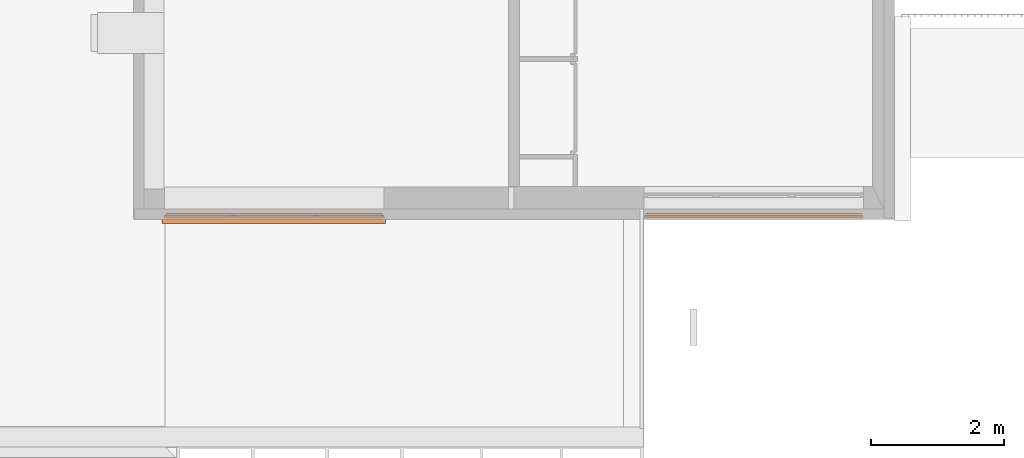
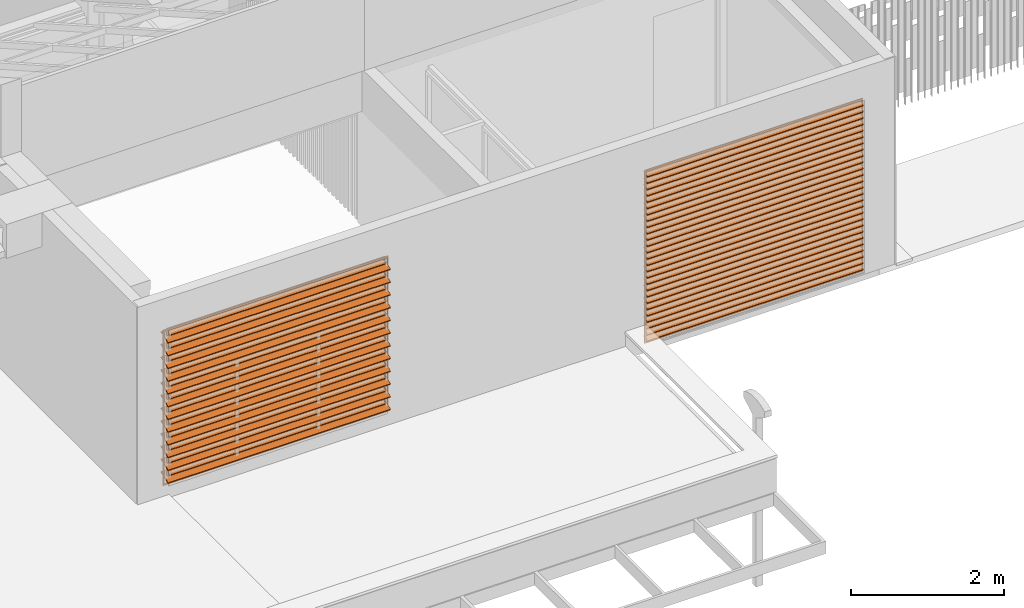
# One storey, part 35 of 51: 3 proxies.
"""IFC2X3 building model written with IfcOpenShell, lengths in metres."""

from ifc_helpers import new_model, entity, si_unit, converted_unit, derived_unit, direction, frame, frame_2d, origin, place, context, subcontext, project, spatial, polyline, rectangle, outline, extrude, source, transform, mapped, material, type_object, type_shapes, element, save


model = new_model("IFC2X3")

# Units and contexts
model_context = context("Model", 3, precision=1e-05, world=origin(), true_north=direction((6.123031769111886e-17, 1.0)))
body_context = subcontext(model_context, "Body", "Model", "MODEL_VIEW")
ifc_project = project(units=[si_unit("LENGTHUNIT", "METRE"), si_unit("AREAUNIT", "SQUARE_METRE"), si_unit("VOLUMEUNIT", "CUBIC_METRE"), converted_unit("PLANEANGLEUNIT", "DEGREE", entity("IfcRatioMeasure", 0.017453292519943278), si_unit("PLANEANGLEUNIT", "RADIAN"), dimensions=[0, 0, 0, 0, 0, 0, 0]), si_unit("MASSUNIT", "GRAM", prefix="KILO"), derived_unit("MASSDENSITYUNIT", [(si_unit("MASSUNIT", "GRAM", prefix="KILO"), 1), (si_unit("LENGTHUNIT", "METRE"), -3)]), derived_unit("MOMENTOFINERTIAUNIT", [(si_unit("LENGTHUNIT", "METRE"), 4)]), si_unit("TIMEUNIT", "SECOND"), si_unit("FREQUENCYUNIT", "HERTZ"), si_unit("THERMODYNAMICTEMPERATUREUNIT", "DEGREE_CELSIUS"), derived_unit("THERMALTRANSMITTANCEUNIT", [(si_unit("MASSUNIT", "GRAM", prefix="KILO"), 1), (si_unit("THERMODYNAMICTEMPERATUREUNIT", "KELVIN"), -1), (si_unit("TIMEUNIT", "SECOND"), -3)]), derived_unit("THERMALCONDUCTANCEUNIT", [(si_unit("MASSUNIT", "GRAM", prefix="KILO"), 1), (si_unit("LENGTHUNIT", "METRE"), 1), (si_unit("THERMODYNAMICTEMPERATUREUNIT", "KELVIN"), -1), (si_unit("TIMEUNIT", "SECOND"), -3)]), derived_unit("VOLUMETRICFLOWRATEUNIT", [(si_unit("LENGTHUNIT", "METRE"), 3), (si_unit("TIMEUNIT", "SECOND"), -1)]), derived_unit("MASSFLOWRATEUNIT", [(si_unit("MASSUNIT", "GRAM", prefix="KILO"), 1), (si_unit("TIMEUNIT", "SECOND"), -1)]), derived_unit("ROTATIONALFREQUENCYUNIT", [(si_unit("TIMEUNIT", "SECOND"), -1)]), si_unit("ELECTRICCURRENTUNIT", "AMPERE"), si_unit("ELECTRICVOLTAGEUNIT", "VOLT"), si_unit("POWERUNIT", "WATT"), si_unit("FORCEUNIT", "NEWTON", prefix="KILO"), si_unit("ILLUMINANCEUNIT", "LUX"), si_unit("LUMINOUSFLUXUNIT", "LUMEN"), si_unit("LUMINOUSINTENSITYUNIT", "CANDELA"), derived_unit("USERDEFINED", [(si_unit("MASSUNIT", "GRAM", prefix="KILO"), -1), (si_unit("LENGTHUNIT", "METRE"), -2), (si_unit("TIMEUNIT", "SECOND"), 3), (si_unit("LUMINOUSFLUXUNIT", "LUMEN"), 1)]), derived_unit("USERDEFINED", [(si_unit("MASSUNIT", "GRAM", prefix="KILO"), 1), (si_unit("LENGTHUNIT", "METRE"), 3), (si_unit("TIMEUNIT", "SECOND"), -3), (si_unit("ELECTRICCURRENTUNIT", "AMPERE"), -2)]), derived_unit("USERDEFINED", [(si_unit("LENGTHUNIT", "METRE"), 2), (si_unit("TIMEUNIT", "SECOND"), -2)]), derived_unit("SOUNDPOWERUNIT", [(si_unit("MASSUNIT", "GRAM", prefix="KILO"), 1), (si_unit("LENGTHUNIT", "METRE"), 2), (si_unit("TIMEUNIT", "SECOND"), -3)]), derived_unit("SOUNDPRESSUREUNIT", [(si_unit("MASSUNIT", "GRAM", prefix="KILO"), 1), (si_unit("LENGTHUNIT", "METRE"), -1), (si_unit("TIMEUNIT", "SECOND"), -2)]), derived_unit("LINEARVELOCITYUNIT", [(si_unit("LENGTHUNIT", "METRE"), 1), (si_unit("TIMEUNIT", "SECOND"), -1)]), si_unit("PRESSUREUNIT", "PASCAL"), derived_unit("USERDEFINED", [(si_unit("LENGTHUNIT", "METRE"), -2), (si_unit("MASSUNIT", "GRAM", prefix="KILO"), 1), (si_unit("TIMEUNIT", "SECOND"), -2)]), derived_unit("LINEARFORCEUNIT", [(si_unit("MASSUNIT", "GRAM", prefix="KILO"), 1), (si_unit("LENGTHUNIT", "METRE"), 1), (si_unit("TIMEUNIT", "SECOND"), -2), (si_unit("LENGTHUNIT", "METRE"), -1)]), derived_unit("PLANARFORCEUNIT", [(si_unit("MASSUNIT", "GRAM", prefix="KILO"), 1), (si_unit("LENGTHUNIT", "METRE"), 1), (si_unit("TIMEUNIT", "SECOND"), -2), (si_unit("LENGTHUNIT", "METRE"), -2)]), derived_unit("SPECIFICHEATCAPACITYUNIT", [(si_unit("LENGTHUNIT", "METRE"), 2), (si_unit("TIMEUNIT", "SECOND"), -2), (si_unit("THERMODYNAMICTEMPERATUREUNIT", "KELVIN"), -1)]), derived_unit("VAPORPERMEABILITYUNIT", [(si_unit("TIMEUNIT", "SECOND"), 1), (si_unit("LENGTHUNIT", "METRE"), -1)]), derived_unit("DYNAMICVISCOSITYUNIT", [(si_unit("MASSUNIT", "GRAM", prefix="KILO"), 1), (si_unit("LENGTHUNIT", "METRE"), -1), (si_unit("TIMEUNIT", "SECOND"), -1)]), derived_unit("THERMALEXPANSIONCOEFFICIENTUNIT", [(si_unit("THERMODYNAMICTEMPERATUREUNIT", "KELVIN"), -1)])], contexts=[model_context])

# Site, building, storey
site_placement = place(None, origin())
site = spatial("IfcSite", under=ifc_project, at=site_placement, Name="Default", CompositionType="ELEMENT")
building_placement = place(site_placement, origin())
building = spatial("IfcBuilding", under=site, at=building_placement, CompositionType="ELEMENT")
storey_placement = place(building_placement, frame((0.0, 0.0, 3.06)))
storey = spatial("IfcBuildingStorey", under=building, at=storey_placement, Name="ÉTAGE", CompositionType="ELEMENT", Elevation=3.06)

# Proxies
ifc_material = material(Name="Peinture - Anthracite")
building_element_proxy_type_1 = type_object("IfcBuildingElementProxyType", Name="Symb-0003", PredefinedType="NOTDEFINED", material=ifc_material)
shared_shape_1 = source(origin(), body_context, "Body", "SweptSolid", [
    extrude(rectangle(XDim=0.02000000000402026, YDim=0.2033333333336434, at=frame_2d((-1.185440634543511e-13, 4.3146909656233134e-14), x_axis=(0.0, 1.0))), frame((117.340752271, 7.628253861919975, 5.698333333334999), z_axis=(1.0, 0.0, 0.0), x_axis=(0.0, 0.9396926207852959, 0.34202014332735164)), (0.0, 0.0, 1.0), 3.3599999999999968),
    extrude(rectangle(XDim=0.019999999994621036, YDim=0.20333333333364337, at=frame_2d((-1.1873141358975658e-13, 4.2640370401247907e-14), x_axis=(0.0, 1.0))), frame((117.340752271, 7.628253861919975, 5.495), z_axis=(1.0, 0.0, 0.0), x_axis=(0.0, 0.9396926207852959, 0.34202014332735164)), (0.0, 0.0, 1.0), 3.3599999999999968),
    extrude(rectangle(XDim=0.020000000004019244, YDim=0.20333333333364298, at=frame_2d((-1.1873141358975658e-13, 4.2636033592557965e-14), x_axis=(0.0, 1.0))), frame((117.340752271, 7.628253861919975, 5.291666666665), z_axis=(1.0, 0.0, 0.0), x_axis=(0.0, 0.9396926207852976, 0.34202014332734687)), (0.0, 0.0, 1.0), 3.3599999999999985),
    extrude(rectangle(XDim=0.020000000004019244, YDim=0.2033333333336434, at=frame_2d((-1.1891876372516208e-13, 4.21320964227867e-14), x_axis=(0.0, 1.0))), frame((117.340752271, 7.628253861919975, 5.088333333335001), z_axis=(1.0, 0.0, 0.0), x_axis=(0.0, 0.9396926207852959, 0.34202014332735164)), (0.0, 0.0, 1.0), 3.3599999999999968),
    extrude(rectangle(XDim=0.019999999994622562, YDim=0.20333333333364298, at=frame_2d((-1.185440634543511e-13, 4.3146909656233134e-14), x_axis=(0.0, 1.0))), frame((117.340752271, 7.628253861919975, 4.885), z_axis=(1.0, 0.0, 0.0), x_axis=(0.0, 0.9396926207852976, 0.34202014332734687)), (0.0, 0.0, 1.0), 3.3599999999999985),
    extrude(rectangle(XDim=0.020000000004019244, YDim=0.20333333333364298, at=frame_2d((-1.186412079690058e-13, 4.289364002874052e-14), x_axis=(0.0, 1.0))), frame((117.340752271, 7.628253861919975, 4.6816666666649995), z_axis=(1.0, 0.0, 0.0), x_axis=(0.0, 0.9396926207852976, 0.34202014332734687)), (0.0, 0.0, 1.0), 3.3599999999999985),
    extrude(rectangle(XDim=0.020000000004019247, YDim=0.2033333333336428, at=frame_2d((-1.185440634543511e-13, 4.3146909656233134e-14), x_axis=(0.0, 1.0))), frame((117.340752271, 7.628253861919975, 4.478333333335), z_axis=(1.0, 0.0, 0.0), x_axis=(0.0, 0.9396926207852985, 0.34202014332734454)), (0.0, 0.0, 1.0), 3.3599999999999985),
    extrude(rectangle(XDim=0.02000000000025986, YDim=0.20333333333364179, at=frame_2d((-1.1813466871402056e-13, 4.2708024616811e-14), x_axis=(0.0, 1.0))), frame((117.340752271, 7.628253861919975, 4.275), z_axis=(1.0, 0.0, 0.0), x_axis=(0.0, 0.9396926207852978, 0.34202014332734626)), (0.0, 0.0, 1.0), 3.3599999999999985),
    extrude(rectangle(XDim=0.020000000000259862, YDim=0.20333333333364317, at=frame_2d((-2.04190830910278e-13, -1.921639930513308e-13), x_axis=(0.0, 1.0))), frame((117.340752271, 7.628253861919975, 4.071666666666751), z_axis=(1.0, 0.0, 0.0), x_axis=(0.0, 0.9396926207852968, 0.34202014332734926)), (0.0, 0.0, 1.0), 3.3599999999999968),
    extrude(rectangle(XDim=0.019999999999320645, YDim=0.20333333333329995, at=frame_2d((-3.267525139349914e-14, 2.775123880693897e-13), x_axis=(0.0, 1.0))), frame((117.340752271, 7.628253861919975, 3.8683333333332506), z_axis=(1.0, 0.0, 0.0), x_axis=(0.0, 0.9396926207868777, 0.34202014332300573)), (0.0, 0.0, 1.0), 3.3599999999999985),
    extrude(rectangle(XDim=0.02000000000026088, YDim=0.20333333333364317, at=frame_2d((-1.186412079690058e-13, 4.289364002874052e-14), x_axis=(0.0, 1.0))), frame((117.340752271, 7.628253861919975, 3.6649999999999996), z_axis=(1.0, 0.0, 0.0), x_axis=(0.0, 0.9396926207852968, 0.34202014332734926)), (0.0, 0.0, 1.0), 3.3599999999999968),
    extrude(rectangle(XDim=0.019999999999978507, YDim=0.203333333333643, at=frame_2d((-1.783642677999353e-13, -1.211903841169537e-13), x_axis=(0.0, 1.0))), frame((117.340752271, 7.628253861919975, 3.4616666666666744), z_axis=(1.0, 0.0, 0.0), x_axis=(0.0, 0.9396926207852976, 0.34202014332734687)), (0.0, 0.0, 1.0), 3.3599999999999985),
    extrude(outline(polyline([(-1.2400000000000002, -1.6999999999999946), (1.2400000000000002, -1.6999999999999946), (1.2400000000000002, 1.6999999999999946), (-1.2400000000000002, 1.6999999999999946), (-1.2400000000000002, -1.6999999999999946)]), holes=[polyline([(-1.2200000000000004, 1.6799999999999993), (1.22, 1.6799999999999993), (1.22, -1.6799999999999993), (-1.2200000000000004, -1.6799999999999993), (-1.2200000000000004, 1.6799999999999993)])]), frame((119.020752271, 7.61825386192, 4.58), z_axis=(0.0, 1.0, 0.0), x_axis=(0.0, 0.0, -1.0)), (0.0, 0.0, 1.0), 0.019999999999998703),
])
type_shapes(building_element_proxy_type_1, [shared_shape_1])
proxy_1_placement = place(storey_placement, frame((0.0, 0.0, -3.06)))
element("IfcBuildingElementProxy", 1, at=proxy_1_placement, inside=storey, type_object=building_element_proxy_type_1, material=ifc_material, Name="Symb-0003 254697:Symb-0003 254697", ObjectType="Symb-0003 254697:Symb-0003 254697", context=body_context, shape_type="MappedRepresentation", body=[
    mapped(shared_shape_1, transform((0.0, 0.0, 0.0), scale=1.0)),
])
building_element_proxy_type_2 = type_object("IfcBuildingElementProxyType", Name="Symb-0003", PredefinedType="NOTDEFINED", material=ifc_material)
shared_shape_2 = source(origin(), body_context, "Body", "SweptSolid", [
    extrude(rectangle(XDim=0.019999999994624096, YDim=0.1007407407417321, at=frame_2d((-6.938893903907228e-16, -3.226585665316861e-16), x_axis=(0.0, 1.0))), frame((124.61075226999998, 7.6372094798, 5.749629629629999), z_axis=(1.0, 0.0, 0.0), x_axis=(0.0, 0.9396926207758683, 0.34202014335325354)), (0.0, 0.0, 1.0), 3.260000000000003),
    extrude(rectangle(XDim=0.01999999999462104, YDim=0.10074074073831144, at=frame_2d((8.548439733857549e-13, 2.3502449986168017e-12), x_axis=(0.0, 1.0))), frame((124.61075226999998, 7.6372094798, 5.648888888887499), z_axis=(1.0, 0.0, 0.0), x_axis=(0.0, 0.9396926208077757, 0.34202014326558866)), (0.0, 0.0, 1.0), 3.260000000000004),
    extrude(rectangle(XDim=0.019999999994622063, YDim=0.10074074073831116, at=frame_2d((8.551631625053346e-13, 2.349550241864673e-12), x_axis=(0.0, 1.0))), frame((124.61075226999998, 7.6372094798, 5.5481481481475), z_axis=(1.0, 0.0, 0.0), x_axis=(0.0, 0.9396926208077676, 0.34202014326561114)), (0.0, 0.0, 1.0), 3.260000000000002),
    extrude(rectangle(XDim=0.019999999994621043, YDim=0.10074074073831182, at=frame_2d((8.544692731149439e-13, 2.3492267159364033e-12), x_axis=(0.0, 1.0))), frame((124.61075226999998, 7.6372094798, 5.4474074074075), z_axis=(1.0, 0.0, 0.0), x_axis=(0.0, 0.9396926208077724, 0.3420201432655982)), (0.0, 0.0, 1.0), 3.260000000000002),
    extrude(rectangle(XDim=0.019999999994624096, YDim=0.10074074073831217, at=frame_2d((8.542888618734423e-13, 2.348718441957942e-12), x_axis=(0.0, 1.0))), frame((124.61075226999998, 7.6372094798, 5.3466666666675), z_axis=(1.0, 0.0, 0.0), x_axis=(0.0, 0.9396926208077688, 0.34202014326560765)), (0.0, 0.0, 1.0), 3.260000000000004),
    extrude(rectangle(XDim=0.020000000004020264, YDim=0.1007407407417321, at=frame_2d((-5.100087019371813e-16, 1.8474805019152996e-16), x_axis=(0.0, 1.0))), frame((124.61075226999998, 7.6372094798, 5.245925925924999), z_axis=(1.0, 0.0, 0.0), x_axis=(0.0, 0.9396926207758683, 0.34202014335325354)), (0.0, 0.0, 1.0), 3.260000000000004),
    extrude(rectangle(XDim=0.020000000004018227, YDim=0.10074074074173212, at=frame_2d((-5.134781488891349e-16, 1.8561541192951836e-16), x_axis=(0.0, 1.0))), frame((124.61075226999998, 7.6372094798, 5.145185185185), z_axis=(1.0, 0.0, 0.0), x_axis=(0.0, 0.9396926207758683, 0.34202014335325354)), (0.0, 0.0, 1.0), 3.260000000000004),
    extrude(rectangle(XDim=0.020000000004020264, YDim=0.1007407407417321, at=frame_2d((-6.973588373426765e-16, -3.2439329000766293e-16), x_axis=(0.0, 1.0))), frame((124.61075226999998, 7.6372094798, 5.044444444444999), z_axis=(1.0, 0.0, 0.0), x_axis=(0.0, 0.9396926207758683, 0.34202014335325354)), (0.0, 0.0, 1.0), 3.260000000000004),
    extrude(rectangle(XDim=0.020000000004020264, YDim=0.1007407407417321, at=frame_2d((-5.100087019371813e-16, 1.8474805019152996e-16), x_axis=(0.0, 1.0))), frame((124.61075226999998, 7.6372094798, 4.943703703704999), z_axis=(1.0, 0.0, 0.0), x_axis=(0.0, 0.9396926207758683, 0.34202014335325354)), (0.0, 0.0, 1.0), 3.260000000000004),
    extrude(rectangle(XDim=0.020000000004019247, YDim=0.10074074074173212, at=frame_2d((-8.554962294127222e-13, -2.3488580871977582e-12), x_axis=(0.0, 1.0))), frame((124.61075226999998, 7.6372094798, 4.842962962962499), z_axis=(1.0, 0.0, 0.0), x_axis=(0.0, 0.9396926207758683, 0.34202014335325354)), (0.0, 0.0, 1.0), 3.260000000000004),
    extrude(rectangle(XDim=0.020000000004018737, YDim=0.10074074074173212, at=frame_2d((-8.554962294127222e-13, -2.3488580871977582e-12), x_axis=(0.0, 1.0))), frame((124.61075226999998, 7.6372094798, 4.7422222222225), z_axis=(1.0, 0.0, 0.0), x_axis=(0.0, 0.9396926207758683, 0.34202014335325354)), (0.0, 0.0, 1.0), 3.260000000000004),
    extrude(rectangle(XDim=0.02000000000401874, YDim=0.10074074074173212, at=frame_2d((-8.55586435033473e-13, -2.349112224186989e-12), x_axis=(0.0, 1.0))), frame((124.61075226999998, 7.6372094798, 4.6414814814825), z_axis=(1.0, 0.0, 0.0), x_axis=(0.0, 0.9396926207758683, 0.34202014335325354)), (0.0, 0.0, 1.0), 3.260000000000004),
    extrude(rectangle(XDim=0.020000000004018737, YDim=0.10074074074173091, at=frame_2d((-8.550764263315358e-13, -2.3492969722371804e-12), x_axis=(0.0, 1.0))), frame((124.61075226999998, 7.6372094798, 4.5407407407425), z_axis=(1.0, 0.0, 0.0), x_axis=(0.0, 0.9396926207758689, 0.34202014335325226)), (0.0, 0.0, 1.0), 3.260000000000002),
    extrude(rectangle(XDim=0.019999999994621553, YDim=0.10074074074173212, at=frame_2d((-4.198030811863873e-16, 4.388850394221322e-16), x_axis=(0.0, 1.0))), frame((124.61075226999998, 7.6372094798, 4.4399999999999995), z_axis=(1.0, 0.0, 0.0), x_axis=(0.0, 0.9396926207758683, 0.34202014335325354)), (0.0, 0.0, 1.0), 3.260000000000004),
    extrude(rectangle(XDim=0.01999999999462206, YDim=0.100740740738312, at=frame_2d((8.54465803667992e-13, 2.3492258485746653e-12), x_axis=(0.0, 1.0))), frame((124.61075226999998, 7.6372094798, 4.3392592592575), z_axis=(1.0, 0.0, 0.0), x_axis=(0.0, 0.9396926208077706, 0.3420201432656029)), (0.0, 0.0, 1.0), 3.260000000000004),
    extrude(rectangle(XDim=0.019999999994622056, YDim=0.1007407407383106, at=frame_2d((8.550694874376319e-13, 2.3492978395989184e-12), x_axis=(0.0, 1.0))), frame((124.61075226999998, 7.6372094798, 4.2385185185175), z_axis=(1.0, 0.0, 0.0), x_axis=(0.0, 0.9396926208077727, 0.3420201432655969)), (0.0, 0.0, 1.0), 3.260000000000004),
    extrude(rectangle(XDim=0.01999999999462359, YDim=0.100740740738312, at=frame_2d((8.545594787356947e-13, 2.349481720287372e-12), x_axis=(0.0, 1.0))), frame((124.61075226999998, 7.6372094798, 4.137777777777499), z_axis=(1.0, 0.0, 0.0), x_axis=(0.0, 0.9396926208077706, 0.3420201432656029)), (0.0, 0.0, 1.0), 3.260000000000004),
    extrude(rectangle(XDim=0.019999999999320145, YDim=0.10074074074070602, at=frame_2d((1.7040882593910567e-13, 4.69789138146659e-13), x_axis=(0.0, 1.0))), frame((124.61075226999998, 7.6372094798, 4.0370370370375), z_axis=(1.0, 0.0, 0.0), x_axis=(0.0, 0.9396926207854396, 0.3420201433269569)), (0.0, 0.0, 1.0), 3.260000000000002),
    extrude(rectangle(XDim=0.020000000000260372, YDim=0.10074074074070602, at=frame_2d((-6.071532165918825e-16, -6.938893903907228e-17), x_axis=(0.0, 1.0))), frame((124.61075226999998, 7.6372094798, 3.9362962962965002), z_axis=(1.0, 0.0, 0.0), x_axis=(0.0, 0.9396926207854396, 0.3420201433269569)), (0.0, 0.0, 1.0), 3.2600000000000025),
    extrude(rectangle(XDim=0.020000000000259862, YDim=0.10074074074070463, at=frame_2d((1.8735013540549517e-16, 5.100087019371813e-16), x_axis=(0.0, 1.0))), frame((124.61075226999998, 7.6372094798, 3.8355555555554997), z_axis=(1.0, 0.0, 0.0), x_axis=(0.0, 0.9396926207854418, 0.3420201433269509)), (0.0, 0.0, 1.0), 3.260000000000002),
    extrude(rectangle(XDim=0.01999999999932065, YDim=0.10074074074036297, at=frame_2d((8.546288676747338e-14, 2.3480262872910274e-13), x_axis=(0.0, 1.0))), frame((124.61075226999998, 7.6372094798, 3.73481481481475), z_axis=(1.0, 0.0, 0.0), x_axis=(0.0, 0.9396926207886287, 0.34202014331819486)), (0.0, 0.0, 1.0), 3.260000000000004),
    extrude(rectangle(XDim=0.01999999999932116, YDim=0.10074074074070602, at=frame_2d((-4.2327252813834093e-16, 4.388850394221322e-16), x_axis=(0.0, 1.0))), frame((124.61075226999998, 7.6372094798, 3.6340740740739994), z_axis=(1.0, 0.0, 0.0), x_axis=(0.0, 0.9396926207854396, 0.3420201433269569)), (0.0, 0.0, 1.0), 3.260000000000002),
    extrude(rectangle(XDim=0.020000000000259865, YDim=0.10074074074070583, at=frame_2d((-5.065392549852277e-16, 1.8474805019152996e-16), x_axis=(0.0, 1.0))), frame((124.61075226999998, 7.6372094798, 3.5333333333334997), z_axis=(1.0, 0.0, 0.0), x_axis=(0.0, 0.9396926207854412, 0.3420201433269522)), (0.0, 0.0, 1.0), 3.260000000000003),
    extrude(rectangle(XDim=0.020000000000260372, YDim=0.10074074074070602, at=frame_2d((-6.071532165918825e-16, -6.938893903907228e-17), x_axis=(0.0, 1.0))), frame((124.61075226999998, 7.6372094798, 3.4325925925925), z_axis=(1.0, 0.0, 0.0), x_axis=(0.0, 0.9396926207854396, 0.3420201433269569)), (0.0, 0.0, 1.0), 3.2600000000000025),
    extrude(rectangle(XDim=0.01999999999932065, YDim=0.1007407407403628, at=frame_2d((8.545941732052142e-14, 2.3480262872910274e-13), x_axis=(0.0, 1.0))), frame((124.61075226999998, 7.6372094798, 3.3318518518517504), z_axis=(1.0, 0.0, 0.0), x_axis=(0.0, 0.9396926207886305, 0.3420201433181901)), (0.0, 0.0, 1.0), 3.260000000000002),
    extrude(rectangle(XDim=0.02000000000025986, YDim=0.10074074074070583, at=frame_2d((-8.59694260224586e-14, -2.346170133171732e-13), x_axis=(0.0, 1.0))), frame((124.61075226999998, 7.6372094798, 3.23111111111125), z_axis=(1.0, 0.0, 0.0), x_axis=(0.0, 0.9396926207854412, 0.3420201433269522)), (0.0, 0.0, 1.0), 3.260000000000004),
    extrude(rectangle(XDim=0.019999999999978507, YDim=0.10074074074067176, at=frame_2d((-5.065392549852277e-16, 1.8561541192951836e-16), x_axis=(0.0, 1.0))), frame((124.61075226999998, 7.6372094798, 3.1303703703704), z_axis=(1.0, 0.0, 0.0), x_axis=(0.0, 0.9396926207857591, 0.34202014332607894)), (0.0, 0.0, 1.0), 3.260000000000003),
    extrude(outline(polyline([(-1.3800000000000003, -1.6499999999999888), (1.38, -1.6499999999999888), (1.38, 1.6500000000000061), (-1.3800000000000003, 1.6500000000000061), (-1.3800000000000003, -1.6499999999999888)]), holes=[polyline([(-1.3600000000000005, 1.6300000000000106), (1.36, 1.6300000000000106), (1.36, -1.6299999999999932), (-1.3600000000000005, -1.6299999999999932), (-1.3600000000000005, 1.6300000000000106)])]), frame((126.24075226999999, 7.627209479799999, 4.4399999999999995), z_axis=(0.0, 1.0, 0.0), x_axis=(0.0, 0.0, -1.0)), (0.0, 0.0, 1.0), 0.019999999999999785),
])
type_shapes(building_element_proxy_type_2, [shared_shape_2])
proxy_2_placement = place(storey_placement, frame((0.0, 0.0, -3.06)))
element("IfcBuildingElementProxy", 2, at=proxy_2_placement, inside=storey, type_object=building_element_proxy_type_2, material=ifc_material, Name="Symb-0003 282040:Symb-0003 282040", ObjectType="Symb-0003 282040:Symb-0003 282040", context=body_context, shape_type="MappedRepresentation", body=[
    mapped(shared_shape_2, transform((0.0, 0.0, 0.0), scale=1.0)),
])
building_element_proxy_type_3 = type_object("IfcBuildingElementProxyType", Name="Symb-0003", PredefinedType="NOTDEFINED", material=ifc_material)
shared_shape_3 = source(origin(), body_context, "Body", "SweptSolid", [
    extrude(rectangle(XDim=0.019999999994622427, YDim=0.10166666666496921, at=frame_2d((8.546566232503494e-13, 2.3497358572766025e-12), x_axis=(0.0, 1.0))), frame((117.400752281, 7.6372094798, 5.7491666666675), z_axis=(1.0, 0.0, 0.0), x_axis=(0.0, 0.9396926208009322, 0.34202014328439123)), (0.0, 0.0, 1.0), 3.260000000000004),
    extrude(rectangle(XDim=0.020000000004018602, YDim=0.1016666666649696, at=frame_2d((-3.2612801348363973e-16, 6.930220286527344e-16), x_axis=(0.0, 1.0))), frame((117.400752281, 7.6372094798, 5.647499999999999), z_axis=(1.0, 0.0, 0.0), x_axis=(0.0, 0.9396926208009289, 0.3420201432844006)), (0.0, 0.0, 1.0), 3.260000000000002),
    extrude(rectangle(XDim=0.020000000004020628, YDim=0.1016666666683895, at=frame_2d((-8.556697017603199e-13, -2.3493654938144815e-12), x_axis=(0.0, 1.0))), frame((117.400752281, 7.6372094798, 5.5458333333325), z_axis=(1.0, 0.0, 0.0), x_axis=(0.0, 0.9396926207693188, 0.34202014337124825)), (0.0, 0.0, 1.0), 3.260000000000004),
    extrude(rectangle(XDim=0.01999999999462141, YDim=0.10166666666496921, at=frame_2d((8.546566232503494e-13, 2.3497358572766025e-12), x_axis=(0.0, 1.0))), frame((117.400752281, 7.6372094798, 5.4441666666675), z_axis=(1.0, 0.0, 0.0), x_axis=(0.0, 0.9396926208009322, 0.34202014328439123)), (0.0, 0.0, 1.0), 3.260000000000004),
    extrude(rectangle(XDim=0.020000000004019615, YDim=0.1016666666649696, at=frame_2d((-6.973588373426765e-16, -3.226585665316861e-16), x_axis=(0.0, 1.0))), frame((117.400752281, 7.6372094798, 5.3425), z_axis=(1.0, 0.0, 0.0), x_axis=(0.0, 0.9396926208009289, 0.3420201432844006)), (0.0, 0.0, 1.0), 3.260000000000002),
    extrude(rectangle(XDim=0.020000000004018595, YDim=0.10166666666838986, at=frame_2d((-8.553019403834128e-13, -2.348348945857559e-12), x_axis=(0.0, 1.0))), frame((117.400752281, 7.6372094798, 5.2408333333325), z_axis=(1.0, 0.0, 0.0), x_axis=(0.0, 0.9396926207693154, 0.34202014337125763)), (0.0, 0.0, 1.0), 3.260000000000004),
    extrude(rectangle(XDim=0.019999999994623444, YDim=0.10166666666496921, at=frame_2d((8.544762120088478e-13, 2.3492284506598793e-12), x_axis=(0.0, 1.0))), frame((117.400752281, 7.6372094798, 5.1391666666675), z_axis=(1.0, 0.0, 0.0), x_axis=(0.0, 0.9396926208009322, 0.34202014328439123)), (0.0, 0.0, 1.0), 3.260000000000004),
    extrude(rectangle(XDim=0.020000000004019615, YDim=0.1016666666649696, at=frame_2d((-6.973588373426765e-16, -3.226585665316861e-16), x_axis=(0.0, 1.0))), frame((117.400752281, 7.6372094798, 5.0375000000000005), z_axis=(1.0, 0.0, 0.0), x_axis=(0.0, 0.9396926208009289, 0.3420201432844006)), (0.0, 0.0, 1.0), 3.260000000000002),
    extrude(rectangle(XDim=0.0200000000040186, YDim=0.1016666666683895, at=frame_2d((-8.553019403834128e-13, -2.348348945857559e-12), x_axis=(0.0, 1.0))), frame((117.400752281, 7.6372094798, 4.935833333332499), z_axis=(1.0, 0.0, 0.0), x_axis=(0.0, 0.9396926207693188, 0.34202014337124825)), (0.0, 0.0, 1.0), 3.260000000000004),
    extrude(rectangle(XDim=0.01999999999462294, YDim=0.1016666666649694, at=frame_2d((8.545664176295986e-13, 2.349481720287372e-12), x_axis=(0.0, 1.0))), frame((117.400752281, 7.6372094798, 4.8341666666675), z_axis=(1.0, 0.0, 0.0), x_axis=(0.0, 0.9396926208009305, 0.3420201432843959)), (0.0, 0.0, 1.0), 3.260000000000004),
    extrude(rectangle(XDim=0.02000000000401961, YDim=0.1016666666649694, at=frame_2d((-4.163336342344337e-16, 4.414871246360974e-16), x_axis=(0.0, 1.0))), frame((117.400752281, 7.6372094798, 4.732499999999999), z_axis=(1.0, 0.0, 0.0), x_axis=(0.0, 0.9396926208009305, 0.3420201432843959)), (0.0, 0.0, 1.0), 3.260000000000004),
    extrude(rectangle(XDim=0.020000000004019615, YDim=0.10166666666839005, at=frame_2d((-8.556766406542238e-13, -2.3493646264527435e-12), x_axis=(0.0, 1.0))), frame((117.400752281, 7.6372094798, 4.630833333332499), z_axis=(1.0, 0.0, 0.0), x_axis=(0.0, 0.9396926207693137, 0.3420201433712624)), (0.0, 0.0, 1.0), 3.260000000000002),
    extrude(rectangle(XDim=0.01999999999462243, YDim=0.10166666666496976, at=frame_2d((8.546635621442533e-13, 2.3497367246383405e-12), x_axis=(0.0, 1.0))), frame((117.400752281, 7.6372094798, 4.5291666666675), z_axis=(1.0, 0.0, 0.0), x_axis=(0.0, 0.9396926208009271, 0.34202014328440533)), (0.0, 0.0, 1.0), 3.260000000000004),
    extrude(rectangle(XDim=0.02000000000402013, YDim=0.1016666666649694, at=frame_2d((-5.065392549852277e-16, 1.8474805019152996e-16), x_axis=(0.0, 1.0))), frame((117.400752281, 7.6372094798, 4.427499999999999), z_axis=(1.0, 0.0, 0.0), x_axis=(0.0, 0.9396926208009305, 0.3420201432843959)), (0.0, 0.0, 1.0), 3.260000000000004),
    extrude(rectangle(XDim=0.020000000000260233, YDim=0.10166666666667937, at=frame_2d((-3.4244135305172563e-13, -9.39278169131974e-13), x_axis=(0.0, 1.0))), frame((117.400752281, 7.6372094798, 4.3258333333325), z_axis=(1.0, 0.0, 0.0), x_axis=(0.0, 0.9396926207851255, 0.3420201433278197)), (0.0, 0.0, 1.0), 3.260000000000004),
    extrude(rectangle(XDim=0.02000000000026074, YDim=0.10166666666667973, at=frame_2d((-6.002143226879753e-16, -6.852157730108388e-17), x_axis=(0.0, 1.0))), frame((117.400752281, 7.6372094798, 4.2241666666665), z_axis=(1.0, 0.0, 0.0), x_axis=(0.0, 0.9396926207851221, 0.34202014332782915)), (0.0, 0.0, 1.0), 3.260000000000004),
    extrude(rectangle(XDim=0.01999999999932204, YDim=0.10166666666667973, at=frame_2d((-5.065392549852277e-16, 1.8561541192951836e-16), x_axis=(0.0, 1.0))), frame((117.400752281, 7.6372094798, 4.1225), z_axis=(1.0, 0.0, 0.0), x_axis=(0.0, 0.9396926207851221, 0.34202014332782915)), (0.0, 0.0, 1.0), 3.260000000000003),
    extrude(rectangle(XDim=0.020000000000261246, YDim=0.10166666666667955, at=frame_2d((-6.036837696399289e-16, -6.852157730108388e-17), x_axis=(0.0, 1.0))), frame((117.400752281, 7.6372094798, 4.0208333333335), z_axis=(1.0, 0.0, 0.0), x_axis=(0.0, 0.9396926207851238, 0.34202014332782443)), (0.0, 0.0, 1.0), 3.260000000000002),
    extrude(rectangle(XDim=0.02000000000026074, YDim=0.10166666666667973, at=frame_2d((-6.938893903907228e-16, -3.2526065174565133e-16), x_axis=(0.0, 1.0))), frame((117.400752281, 7.6372094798, 3.9191666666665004), z_axis=(1.0, 0.0, 0.0), x_axis=(0.0, 0.9396926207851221, 0.34202014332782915)), (0.0, 0.0, 1.0), 3.260000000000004),
    extrude(rectangle(XDim=0.01999999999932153, YDim=0.10166666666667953, at=frame_2d((-5.065392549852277e-16, 1.8474805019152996e-16), x_axis=(0.0, 1.0))), frame((117.400752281, 7.6372094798, 3.8174999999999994), z_axis=(1.0, 0.0, 0.0), x_axis=(0.0, 0.9396926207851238, 0.34202014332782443)), (0.0, 0.0, 1.0), 3.2600000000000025),
    extrude(rectangle(XDim=0.020000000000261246, YDim=0.10166666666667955, at=frame_2d((-5.100087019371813e-16, 1.8561541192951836e-16), x_axis=(0.0, 1.0))), frame((117.400752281, 7.6372094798, 3.7158333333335), z_axis=(1.0, 0.0, 0.0), x_axis=(0.0, 0.9396926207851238, 0.34202014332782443)), (0.0, 0.0, 1.0), 3.260000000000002),
    extrude(rectangle(XDim=0.02000000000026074, YDim=0.10166666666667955, at=frame_2d((-5.100087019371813e-16, 1.8474805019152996e-16), x_axis=(0.0, 1.0))), frame((117.400752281, 7.6372094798, 3.6141666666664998), z_axis=(1.0, 0.0, 0.0), x_axis=(0.0, 0.9396926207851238, 0.34202014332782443)), (0.0, 0.0, 1.0), 3.260000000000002),
    extrude(rectangle(XDim=0.01999999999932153, YDim=0.10166666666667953, at=frame_2d((-5.065392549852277e-16, 1.8474805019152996e-16), x_axis=(0.0, 1.0))), frame((117.400752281, 7.6372094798, 3.5124999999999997), z_axis=(1.0, 0.0, 0.0), x_axis=(0.0, 0.9396926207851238, 0.34202014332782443)), (0.0, 0.0, 1.0), 3.2600000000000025),
    extrude(rectangle(XDim=0.01999999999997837, YDim=0.10166666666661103, at=frame_2d((-6.002143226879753e-16, -6.852157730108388e-17), x_axis=(0.0, 1.0))), frame((117.400752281, 7.6372094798, 3.4108333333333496), z_axis=(1.0, 0.0, 0.0), x_axis=(0.0, 0.9396926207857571, 0.3420201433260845)), (0.0, 0.0, 1.0), 3.260000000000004),
    extrude(outline(polyline([(-1.2400000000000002, -1.6499999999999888), (1.2400000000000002, -1.6499999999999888), (1.2400000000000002, 1.6500000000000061), (-1.2400000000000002, 1.6500000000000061), (-1.2400000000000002, -1.6499999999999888)]), holes=[polyline([(-1.2200000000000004, 1.6300000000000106), (1.22, 1.6300000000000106), (1.22, -1.6299999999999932), (-1.2200000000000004, -1.6299999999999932), (-1.2200000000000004, 1.6300000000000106)])]), frame((119.030752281, 7.627209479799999, 4.58), z_axis=(0.0, 1.0, 0.0), x_axis=(0.0, 0.0, -1.0)), (0.0, 0.0, 1.0), 0.019999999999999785),
])
type_shapes(building_element_proxy_type_3, [shared_shape_3])
proxy_3_placement = place(storey_placement, frame((0.0, 0.0, -3.06)))
element("IfcBuildingElementProxy", 3, at=proxy_3_placement, inside=storey, type_object=building_element_proxy_type_3, material=ifc_material, Name="Symb-0003 472838:Symb-0003 472838", ObjectType="Symb-0003 472838:Symb-0003 472838", context=body_context, shape_type="MappedRepresentation", body=[
    mapped(shared_shape_3, transform((0.0, 0.0, 0.0), scale=1.0)),
])

save(model, "model.ifc")
